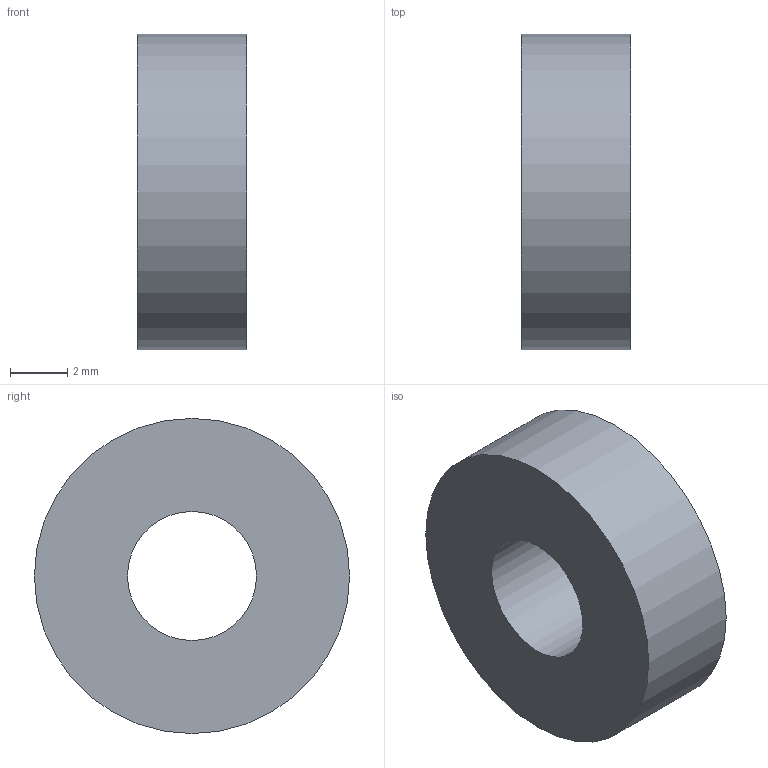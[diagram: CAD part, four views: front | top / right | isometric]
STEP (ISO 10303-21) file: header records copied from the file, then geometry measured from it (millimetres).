
FILE_DESCRIPTION(('Open CASCADE Model'),'2;1');
FILE_NAME('Open CASCADE Shape Model','2026-10-18T22:58:40',('Author'),( 'Open CASCADE'),'Open CASCADE STEP processor 7.9','Open CASCADE 7.9' ,'Unknown');
FILE_SCHEMA(('AUTOMOTIVE_DESIGN { 1 0 10303 214 1 1 1 1 }'));
Length unit declared in the file: millimetre
Products named in the file (1): Open CASCADE STEP translator 7.9 34
Bounding box: 3.83 x 11 x 11 mm (x, y, z)
Volume: 302.7 mm3; surface area: 344.5 mm2
Topology: 1 solids, 1 shells, 4 faces, 6 edges, 4 vertices
Faces by surface type: cylinder 2, plane 2
Full cylindrical faces by diameter (mm): 4.5 x1, 11 x1
Entity records: 192 total; most frequent: CARTESIAN_POINT 39, DIRECTION 30, ORIENTED_EDGE 12, PCURVE 12, DEFINITIONAL_REPRESENTATION 12, LINE 10, VECTOR 10, AXIS2_PLACEMENT_3D 9
